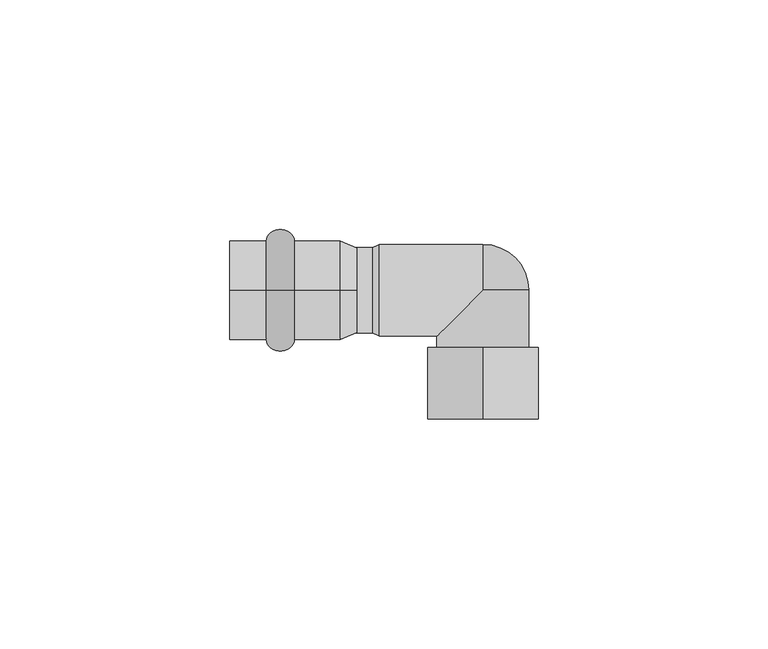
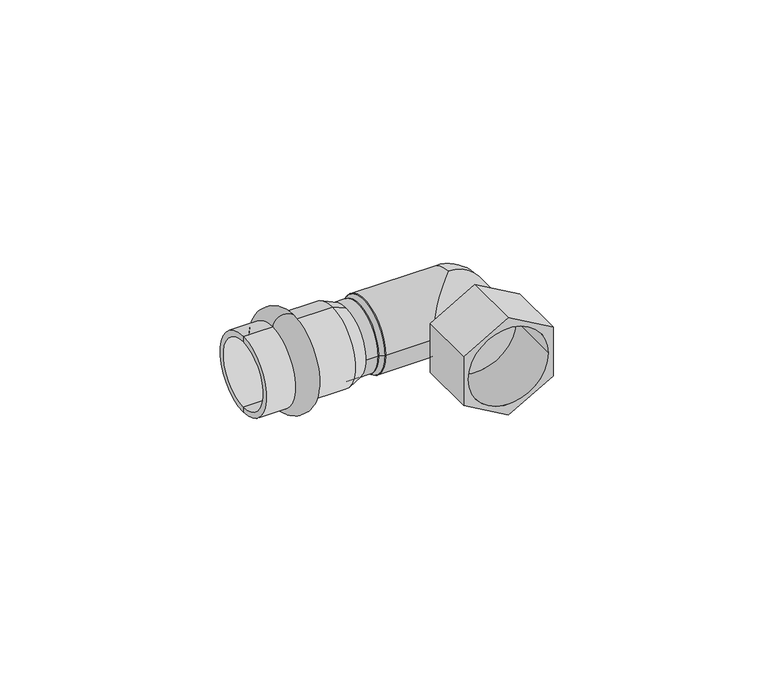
"""IFC4 building model written with IfcOpenShell, lengths in millimetres: pipe fitting geometry."""

from ifc_helpers import new_model, si_unit, point, frame, origin, origin_2d, place, context, project, spatial, polyline, circle_curve, ellipse_curve, trimmed, segment, composite_curve, outline, extrude, source, transform, mapped, element, save
from ifc_brep_helpers import plane_surface, cylinder_surface, revolved_surface, advanced_brep


def pipe_fitting_249d278d(model_context):
    return source(origin(), model_context, "Body", "SolidModel", [
        advanced_brep(
        [(-16.1, 0.0, 10.75), (-16.1, 0.0, -10.75), (-10.0, 0.0, -10.75), (-10.0, 0.0, 10.75)],
        [
            (0, 1, circle_curve(frame((-16.1, 0.0, 0.0), z_axis=(-1.0, 0.0, 0.0), x_axis=(0.0, 0.0, -1.0)), 10.75)),
            (1, 2),
            (2, 3, circle_curve(frame((-10.0, 0.0, 0.0), z_axis=(1.0, 0.0, 0.0), x_axis=(0.0, 0.0, -1.0)), 10.75)),
            (3, 0),
            (1, 0, circle_curve(frame((-16.1, 0.0, 0.0), z_axis=(-1.0, 0.0, 0.0), x_axis=(0.0, 0.0, -1.0)), 10.75)),
            (3, 2, circle_curve(frame((-10.0, 0.0, 0.0), z_axis=(1.0, 0.0, 0.0), x_axis=(0.0, 0.0, -1.0)), 10.75)),
            (2, 1, ellipse_curve(frame((-13.05, 0.0, -10.75), z_axis=(0.0, 1.0, 0.0), x_axis=(-1.0, 0.0, 0.0)), 3.05, 2.5)),
            (0, 3, ellipse_curve(frame((-13.05, 0.0, 10.75), z_axis=(0.0, 1.0, 0.0), x_axis=(-1.0, 0.0, 0.0)), 3.05, 2.5)),
        ],
        [
            revolved_surface(polyline([(-10.0, 0.0, -10.75), (-16.1, 0.0, -10.75)]), (3.0, 0.0, 0.0), (1.0, 0.0, 0.0)),
            revolved_surface(trimmed(ellipse_curve(frame((-13.05, 0.0, -10.75), z_axis=(0.0, -1.0, 0.0), x_axis=(-1.0, 0.0, 0.0)), 3.05, 2.5), [point((-16.1, 0.0, -10.75))], [point((-10.0, 0.0, -10.75))], True, "CARTESIAN"), (3.0, 0.0, 0.0), (1.0, 0.0, 0.0)),
        ],
        [
            (0, [[1, 2, 3, 4]]),
            (0, [[5, -4, 6, -2]]),
            (1, [[-3, 7, -1, 8]]),
            (1, [[-6, -8, -5, -7]]),
        ],
    ),
        advanced_brep(
        [(3.5337785, 0.0, 9.25), (3.5337785, 0.0, -9.25), (0.0, 0.0, -10.75), (0.0, 0.0, 10.75), (-24.0, 0.0, 9.25), (-24.0, 0.0, -9.25), (-24.0, 0.0, 10.75), (-24.0, 0.0, -10.75)],
        [
            (0, 1, circle_curve(frame((3.5337785, 0.0, 0.0), z_axis=(-1.0, 0.0, 0.0), x_axis=(0.0, 0.0, -1.0)), 9.25)),
            (1, 2),
            (2, 3, circle_curve(frame((0.0, 0.0, 0.0), z_axis=(1.0, 0.0, 0.0), x_axis=(0.0, 0.0, -1.0)), 10.75)),
            (3, 0),
            (1, 0, circle_curve(frame((3.5337785, 0.0, 0.0), z_axis=(-1.0, 0.0, 0.0), x_axis=(0.0, 0.0, -1.0)), 9.25)),
            (3, 2, circle_curve(frame((0.0, 0.0, 0.0), z_axis=(1.0, 0.0, 0.0), x_axis=(0.0, 0.0, -1.0)), 10.75)),
            (4, 5, circle_curve(frame((-24.0, 0.0, 0.0), z_axis=(-1.0, 0.0, 0.0), x_axis=(0.0, 0.0, -1.0)), 9.25)),
            (5, 1),
            (0, 4),
            (5, 4, circle_curve(frame((-24.0, 0.0, 0.0), z_axis=(-1.0, 0.0, 0.0), x_axis=(0.0, 0.0, -1.0)), 9.25)),
            (6, 7, circle_curve(frame((-24.0, 0.0, 0.0), z_axis=(-1.0, 0.0, 0.0), x_axis=(0.0, 0.0, -1.0)), 10.75)),
            (7, 5),
            (4, 6),
            (7, 6, circle_curve(frame((-24.0, 0.0, 0.0), z_axis=(-1.0, 0.0, 0.0), x_axis=(0.0, 0.0, -1.0)), 10.75)),
            (2, 7),
            (6, 3),
        ],
        [
            revolved_surface(polyline([(0.0, 0.0, -10.75), (3.5337785, 0.0, -9.25)]), (3.0, 0.0, 0.0), (1.0, 0.0, 0.0)),
            revolved_surface(polyline([(3.5337785, 0.0, -9.25), (-24.0, 0.0, -9.25)]), (3.0, 0.0, 0.0), (1.0, 0.0, 0.0)),
            plane_surface(frame((-24.0, 0.0, 0.0), z_axis=(-1.0, 0.0, 0.0), x_axis=(0.0, 0.0, -1.0))),
            cylinder_surface(frame((3.0, 0.0, 0.0), z_axis=(1.0, 0.0, 0.0), x_axis=(0.0, 0.0, -1.0)), 10.75),
        ],
        [
            (0, [[1, 2, 3, 4]]),
            (0, [[5, -4, 6, -2]]),
            (1, [[7, 8, -1, 9]]),
            (1, [[10, -9, -5, -8]]),
            (2, [[11, 12, -7, 13]]),
            (2, [[14, -13, -10, -12]]),
            (3, [[-3, 15, -11, 16]]),
            (3, [[-6, -16, -14, -15]]),
        ],
    ),
        advanced_brep(
        [(8.5, -10.0, 0.0), (8.5, 10.0, 0.0), (31.0, 10.0, 0.0), (31.0, 0.0, -10.0), (21.0, -10.0, 0.0), (31.0, 0.0, 10.0), (41.0, -12.5, 0.0), (21.0, -12.5, 0.0), (41.0, 0.0, 0.0)],
        [
            (0, 1, circle_curve(frame((8.5, 0.0, 0.0), z_axis=(-1.0, 0.0, 0.0), x_axis=(0.0, 1.0, 0.0)), 10.0)),
            (1, 0, circle_curve(frame((8.5, 0.0, 0.0), z_axis=(-1.0, 0.0, 0.0), x_axis=(0.0, 1.0, 0.0)), 10.0)),
            (1, 2),
            (2, 3, circle_curve(frame((31.0, 0.0, 0.0), z_axis=(-1.0, 0.0, 0.0), x_axis=(0.0, 1.0, 0.0)), 10.0)),
            (3, 4, ellipse_curve(frame((31.0, 0.0, 0.0), z_axis=(-0.7071067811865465, 0.7071067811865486, 0.0), x_axis=(0.7071067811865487, 0.7071067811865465, 0.0)), 14.1421356, 10.0)),
            (4, 0),
            (4, 5, ellipse_curve(frame((31.0, 0.0, 0.0), z_axis=(-0.7071067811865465, 0.7071067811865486, 0.0), x_axis=(0.7071067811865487, 0.7071067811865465, 0.0)), 14.1421356, 10.0)),
            (5, 2, circle_curve(frame((31.0, 0.0, 0.0), z_axis=(-1.0, 0.0, 0.0), x_axis=(0.0, 1.0, 0.0)), 10.0)),
            (6, 7, circle_curve(frame((31.0, -12.5, 0.0), z_axis=(0.0, -1.0, 0.0), x_axis=(0.0, 0.0, 1.0)), 10.0)),
            (7, 6, circle_curve(frame((31.0, -12.5, 0.0), z_axis=(0.0, -1.0, 0.0), x_axis=(0.0, 0.0, -1.0)), 10.0)),
            (7, 4),
            (3, 8, circle_curve(frame((31.0, 0.0, 0.0), z_axis=(0.0, -1.0, 0.0), x_axis=(0.0, 0.0, -1.0)), 10.0)),
            (8, 6),
            (8, 5, circle_curve(frame((31.0, 0.0, 0.0), z_axis=(0.0, -1.0, 0.0), x_axis=(0.0, 0.0, 1.0)), 10.0)),
        ],
        [
            plane_surface(frame((8.5, 10.0, 0.0), z_axis=(-1.0, 0.0, 0.0), x_axis=(0.0, 0.0, -1.0))),
            cylinder_surface(frame((8.5, 0.0, 0.0), z_axis=(1.0, 0.0, 0.0), x_axis=(0.0, 1.0, 0.0)), 10.0),
            plane_surface(frame((31.0, -12.5, 0.0), z_axis=(0.0, -1.0, 0.0), x_axis=(0.0, 0.0, -1.0))),
            cylinder_surface(frame((31.0, 0.0, 0.0), z_axis=(0.0, -1.0, 0.0), x_axis=(0.0, 0.0, -1.0)), 10.0),
            cylinder_surface(frame((31.0, 0.0, 0.0), z_axis=(0.0, -1.0, 0.0), x_axis=(0.0, 0.0, 1.0)), 10.0),
            revolved_surface(trimmed(ellipse_curve(frame((31.0, 0.0, 0.0), z_axis=(0.0, -1.0, 0.0), x_axis=(1.0, 0.0, 0.0)), 10.0, 10.0), [point((31.0, 0.0, -10.0))], [point((31.0, 0.0, 10.0))], True, "CARTESIAN"), (31.0, 0.0, 0.0), (0.0, 0.0, 1.0)),
        ],
        [
            (0, [[1, 2]]),
            (1, [[-2, 3, 4, 5, 6]]),
            (1, [[-1, -6, 7, 8, -3]]),
            (2, [[9, 10]]),
            (3, [[-10, 11, -5, 12, 13]]),
            (4, [[-9, -13, 14, -7, -11]]),
            (5, [[-4, -8, -14, -12]]),
        ],
    ),
        advanced_brep(
        [(43.0, -12.5, -6.9282032), (43.0, -28.0, -6.9282032), (31.0, -28.0, -13.8564065), (31.0, -12.5, -13.8564065), (32.0, -12.5, -0.5773503), (31.0, -12.5, -1.1547005), (31.0, -13.0, -1.1547005), (32.0, -13.0, -0.5773503), (19.0, -28.0, -6.9282032), (19.0, -12.5, -6.9282032), (30.0, -12.5, -0.5773503), (30.0, -13.0, -0.5773503), (19.0, -12.5, 6.9282032), (19.0, -28.0, 6.9282032), (31.0, -28.0, 13.8564065), (31.0, -12.5, 13.8564065), (30.0, -12.5, 0.5773503), (31.0, -12.5, 1.1547005), (31.0, -13.0, 1.1547005), (30.0, -13.0, 0.5773503), (43.0, -28.0, 6.9282032), (43.0, -12.5, 6.9282032), (32.0, -12.5, 0.5773503), (32.0, -13.0, 0.5773503), (41.75, -28.0, 0.0), (20.25, -28.0, 0.0), (41.75, -13.0, 0.0), (20.25, -13.0, 0.0)],
        [
            (0, 1),
            (1, 2),
            (2, 3),
            (3, 0),
            (4, 5),
            (5, 6),
            (6, 7),
            (7, 4),
            (2, 8),
            (8, 9),
            (9, 3),
            (5, 10),
            (10, 11),
            (11, 6),
            (12, 13),
            (13, 14),
            (14, 15),
            (15, 12),
            (16, 17),
            (17, 18),
            (18, 19),
            (19, 16),
            (14, 20),
            (20, 21),
            (21, 15),
            (17, 22),
            (22, 23),
            (23, 18),
            (8, 13),
            (12, 9),
            (10, 16),
            (19, 11),
            (1, 20),
            (24, 25, circle_curve(frame((31.0, -28.0, 0.0), z_axis=(0.0, 1.0, 0.0), x_axis=(-1.0, 0.0, 0.0)), 10.75)),
            (25, 24, circle_curve(frame((31.0, -28.0, 0.0), z_axis=(0.0, 1.0, 0.0), x_axis=(-1.0, 0.0, 0.0)), 10.75)),
            (0, 21),
            (4, 22),
            (7, 23),
            (26, 27, circle_curve(frame((31.0, -13.0, 0.0), z_axis=(0.0, -1.0, 0.0), x_axis=(-1.0, 0.0, 0.0)), 10.75)),
            (27, 26, circle_curve(frame((31.0, -13.0, 0.0), z_axis=(0.0, -1.0, 0.0), x_axis=(-1.0, 0.0, 0.0)), 10.75)),
            (27, 25),
            (24, 26),
        ],
        [
            plane_surface(frame((43.0, -28.0, -6.9282032), z_axis=(0.5000000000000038, 0.0, -0.8660254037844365), x_axis=(-0.8660254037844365, 0.0, -0.5000000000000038))),
            plane_surface(frame((32.0, -12.5, -0.5773503), z_axis=(-0.500000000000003, 0.0, 0.8660254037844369), x_axis=(-0.8660254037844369, 0.0, -0.500000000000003))),
            plane_surface(frame((31.0, -28.0, -13.8564065), z_axis=(-0.49999999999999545, 0.0, -0.8660254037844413), x_axis=(-0.8660254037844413, 0.0, 0.49999999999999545))),
            plane_surface(frame((31.0, -12.5, -1.1547005), z_axis=(0.49999999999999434, 0.0, 0.8660254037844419), x_axis=(-0.8660254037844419, 0.0, 0.49999999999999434))),
            plane_surface(frame((19.0, -28.0, 6.9282032), z_axis=(-0.500000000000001, 0.0, 0.8660254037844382), x_axis=(0.8660254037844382, 0.0, 0.500000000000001))),
            plane_surface(frame((30.0, -12.5, 0.5773503), z_axis=(0.5000000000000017, 0.0, -0.8660254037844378), x_axis=(0.8660254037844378, 0.0, 0.5000000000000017))),
            plane_surface(frame((31.0, -28.0, 13.8564065), z_axis=(0.4999999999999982, 0.0, 0.8660254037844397), x_axis=(0.8660254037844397, 0.0, -0.4999999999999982))),
            plane_surface(frame((31.0, -12.5, 1.1547005), z_axis=(-0.5, 0.0, -0.8660254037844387), x_axis=(0.8660254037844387, 0.0, -0.5))),
            plane_surface(frame((19.0, -28.0, -6.9282032), z_axis=(-1.0, 0.0, 0.0), x_axis=(0.0, 0.0, 1.0))),
            plane_surface(frame((30.0, -12.5, -0.5773503), z_axis=(1.0, 0.0, 0.0), x_axis=(0.0, 0.0, 1.0))),
            plane_surface(frame((32.0, -28.0, 0.5773503), z_axis=(0.0, -1.0, 0.0), x_axis=(0.0, 0.0, -1.0))),
            plane_surface(frame((43.0, -28.0, 6.9282032), z_axis=(1.0, 0.0, 0.0), x_axis=(0.0, 0.0, -1.0))),
            plane_surface(frame((43.0, -12.5, 6.9282032), z_axis=(0.0, 1.0, 0.0), x_axis=(0.0, 0.0, -1.0))),
            plane_surface(frame((32.0, -12.5, 0.5773503), z_axis=(-1.0, 0.0, 0.0), x_axis=(0.0, 0.0, -1.0))),
            plane_surface(frame((20.25, -13.0, 0.0), z_axis=(0.0, -1.0, 0.0), x_axis=(0.0, 0.0, 1.0))),
            revolved_surface(polyline([(20.25, -13.0, 0.0), (20.25, -28.0, 0.0)]), (31.0, -28.0, 0.0), (0.0, 1.0, 0.0)),
        ],
        [
            (0, [[1, 2, 3, 4]]),
            (1, [[5, 6, 7, 8]]),
            (2, [[-3, 9, 10, 11]]),
            (3, [[12, 13, 14, -6]]),
            (4, [[15, 16, 17, 18]]),
            (5, [[19, 20, 21, 22]]),
            (6, [[-17, 23, 24, 25]]),
            (7, [[26, 27, 28, -20]]),
            (8, [[-10, 29, -15, 30]]),
            (9, [[31, -22, 32, -13]]),
            (10, [[-2, 33, -23, -16, -29, -9], [34, 35]]),
            (11, [[-1, 36, -24, -33]]),
            (12, [[-4, -11, -30, -18, -25, -36], [-5, 37, -26, -19, -31, -12]]),
            (13, [[-37, -8, 38, -27]]),
            (14, [[39, 40], [-7, -14, -32, -21, -28, -38]]),
            (15, [[-40, 41, -34, 42]]),
            (15, [[-39, -42, -35, -41]]),
        ],
    ),
        advanced_brep(
        [(8.5, -10.0, 0.0), (8.5, 10.0, 0.0), (7.0, -9.25, 0.0), (7.0, 9.25, 0.0)],
        [
            (0, 1, circle_curve(frame((8.5, 0.0, 0.0), z_axis=(1.0, 0.0, 0.0), x_axis=(0.0, -1.0, 0.0)), 10.0)),
            (1, 0, circle_curve(frame((8.5, 0.0, 0.0), z_axis=(1.0, 0.0, 0.0), x_axis=(0.0, 1.0, 0.0)), 10.0)),
            (2, 3, circle_curve(frame((7.0, 0.0, 0.0), z_axis=(-1.0, 0.0, 0.0), x_axis=(0.0, 1.0, 0.0)), 9.25)),
            (3, 2, circle_curve(frame((7.0, 0.0, 0.0), z_axis=(-1.0, 0.0, 0.0), x_axis=(0.0, -1.0, 0.0)), 9.25)),
            (3, 1),
            (0, 2),
        ],
        [
            plane_surface(frame((8.5, 0.0, 0.0), z_axis=(1.0, 0.0, 0.0), x_axis=(0.0, 0.0, -1.0))),
            plane_surface(frame((7.0, 0.0, 0.0), z_axis=(-1.0, 0.0, 0.0), x_axis=(0.0, 0.0, -1.0))),
            revolved_surface(polyline([(7.0, 9.25, 0.0), (8.5, 10.0, 0.0)]), (-11.5, 0.0, 0.0), (1.0, 0.0, 0.0)),
            revolved_surface(polyline([(7.0, -9.25, 0.0), (8.5, -10.0, 0.0)]), (-11.5, 0.0, 0.0), (1.0, 0.0, 0.0)),
        ],
        [
            (0, [[1, 2]]),
            (1, [[3, 4]]),
            (2, [[-4, 5, -1, 6]]),
            (3, [[-3, -6, -2, -5]]),
        ],
    ),
        extrude(outline(composite_curve([segment(trimmed(circle_curve(origin_2d(), 9.25), [point((-9.25, 0.0))], [point((9.25, 0.0))], False, "CARTESIAN"), True, "CONTINUOUS"), segment(trimmed(circle_curve(origin_2d(), 9.25), [point((9.25, 0.0))], [point((-9.25, 0.0))], False, "CARTESIAN"), True, "CONTINUOUS")], self_intersect=False)), frame((0.0, 0.0, 0.0), z_axis=(1.0, 0.0, 0.0), x_axis=(0.0, 1.0, 0.0)), (0.0, 0.0, 1.0), 7.0),
    ])


if __name__ == "__main__":
    model = new_model("IFC4")
    model_context = context("Model", 3, world=origin())
    ifc_project = project(units=[si_unit("LENGTHUNIT", "METRE", prefix="MILLI")], contexts=[model_context])
    site = spatial("IfcSite", under=ifc_project)
    building = spatial("IfcBuilding", under=site)
    placement = place(None, origin())
    pipe_fitting_shape = pipe_fitting_249d278d(model_context)
    element("IfcPipeFitting", 1, ObjectType="РЕХАУ_Пресс Угольник ВР : 18 x Rp 1/2\"", at=placement, inside=building, context=model_context, shape_type="MappedRepresentation", body=[
        mapped(pipe_fitting_shape, transform((0.0, 0.0, 0.0), x_axis=(1.0, 0.0, 0.0), y_axis=(0.0, 1.0, 0.0), z_axis=(0.0, 0.0, 1.0))),
    ])
    save(model, "model.ifc")
